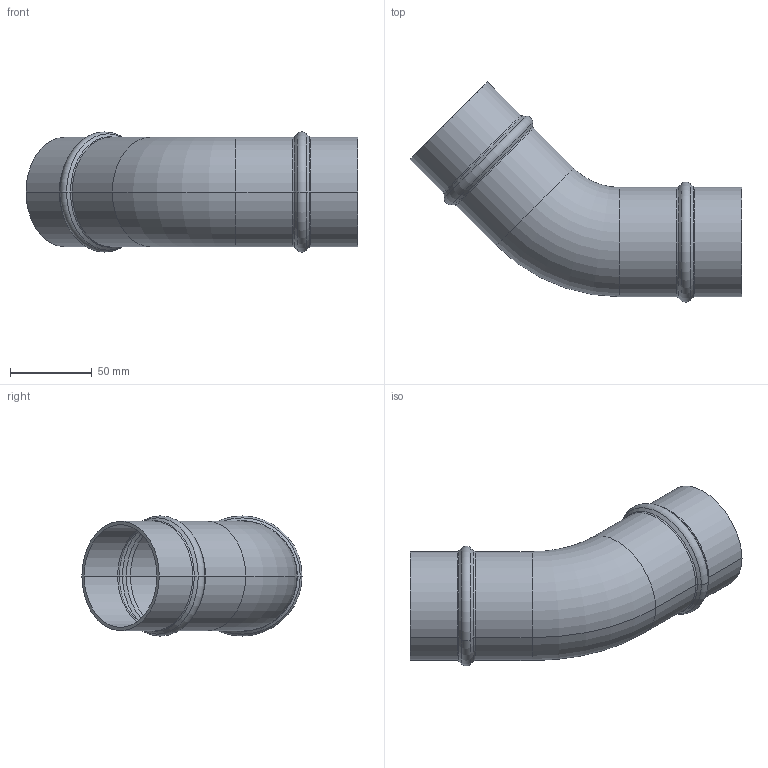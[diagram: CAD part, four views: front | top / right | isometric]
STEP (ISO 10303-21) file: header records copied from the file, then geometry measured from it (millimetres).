
FILE_DESCRIPTION(/* description */ (''),/* implementation_level */ '2;1');
FILE_NAME(/* name */ '6004_stp.stp',/* time_stamp */ '2025-06-20T11:25:29+08:00',/* author */ (''),/* organization */ (''),/* preprocessor_version */ 'ST-DEVELOPER v14',/* originating_system */ 'SIEMENS PLM Software NX 8.0',/* authorisation */ '');
FILE_SCHEMA (('AP203_CONFIGURATION_CONTROLLED_3D_DESIGN_OF_MECHANICAL_PARTS_AND_ASSEMBLIES_MIM_LF { 1 0 10303 403 2 1 2}'));
Length unit declared in the file: millimetre
Products named in the file (1): Admi144825784xcg
Bounding box: 203.46 x 134.93 x 73.56 mm (x, y, z)
Volume: 87134.2 mm3; surface area: 87951 mm2
Topology: 1 solids, 1 shells, 62 faces, 132 edges, 72 vertices
Faces by surface type: torus 28, cylinder 16, cone 16, plane 2
Entity records: 1768 total; most frequent: DIRECTION 358, CARTESIAN_POINT 267, ORIENTED_EDGE 264, AXIS2_PLACEMENT_3D 163, EDGE_CURVE 132, CIRCLE 100, VERTEX_POINT 72, EDGE_LOOP 64
